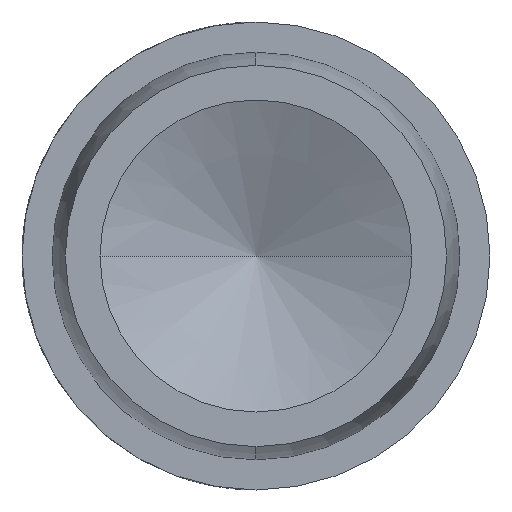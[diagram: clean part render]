
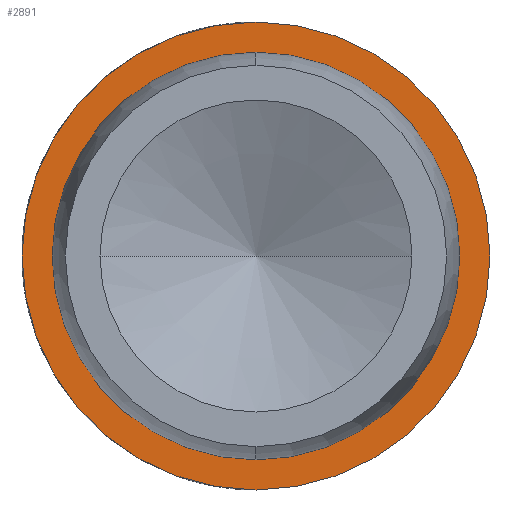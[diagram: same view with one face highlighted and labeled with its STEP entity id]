
A CAD part, left-side view. The second image highlights one B-rep face of the part: STEP entity #2891.
In plain terms, the highlighted planar face has unit normal (-1, 0, 0).
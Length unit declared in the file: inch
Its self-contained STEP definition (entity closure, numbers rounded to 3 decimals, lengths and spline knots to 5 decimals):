
#71 = DIRECTION ( 'NONE',  ( -1., 0., 0. ) ) ;
#96 = EDGE_LOOP ( 'NONE', ( #1020, #966 ) ) ;
#265 = EDGE_LOOP ( 'NONE', ( #957, #948 ) ) ;
#357 = DIRECTION ( 'NONE',  ( -1., 0., 0. ) ) ;
#447 = CIRCLE ( 'NONE', #2222, 0.5625 ) ;
#508 = CIRCLE ( 'NONE', #2364, 0.49 ) ;
#548 = DIRECTION ( 'NONE',  ( -1., 0., 0. ) ) ;
#683 = CARTESIAN_POINT ( 'NONE',  ( -0.59941, 3.48708, -2.88083 ) ) ;
#831 = CARTESIAN_POINT ( 'NONE',  ( -0.59941, 3.48708, -3.44333 ) ) ;
#948 = ORIENTED_EDGE ( 'NONE', *, *, #2861, .F. ) ;
#957 = ORIENTED_EDGE ( 'NONE', *, *, #2919, .F. ) ;
#966 = ORIENTED_EDGE ( 'NONE', *, *, #2925, .T. ) ;
#1020 = ORIENTED_EDGE ( 'NONE', *, *, #2881, .T. ) ;
#1027 = CARTESIAN_POINT ( 'NONE',  ( -0.59941, 3.48708, -3.93333 ) ) ;
#1055 = DIRECTION ( 'NONE',  ( 0., 0., 1. ) ) ;
#1098 = FACE_BOUND ( 'NONE', #265, .T. ) ;
#1133 = CARTESIAN_POINT ( 'NONE',  ( -0.59941, 3.48708, -4.00583 ) ) ;
#1144 = VERTEX_POINT ( 'NONE', #1027 ) ;
#1168 = CARTESIAN_POINT ( 'NONE',  ( -0.59941, 3.48708, -3.44333 ) ) ;
#1291 = FACE_OUTER_BOUND ( 'NONE', #96, .T. ) ;
#1363 = DIRECTION ( 'NONE',  ( 0., 0., 1. ) ) ;
#1389 = CIRCLE ( 'NONE', #2410, 0.5625 ) ;
#1408 = CARTESIAN_POINT ( 'NONE',  ( -0.59941, 3.48708, -3.93333 ) ) ;
#1561 = VERTEX_POINT ( 'NONE', #1133 ) ;
#1600 = DIRECTION ( 'NONE',  ( 0., 0., 1. ) ) ;
#1630 = CARTESIAN_POINT ( 'NONE',  ( -0.59941, 3.48708, -3.44333 ) ) ;
#1755 = CIRCLE ( 'NONE', #2449, 0.49 ) ;
#1799 = CARTESIAN_POINT ( 'NONE',  ( -0.59941, 3.48708, -3.44333 ) ) ;
#1806 = PLANE ( 'NONE',  #2386 ) ;
#1842 = DIRECTION ( 'NONE',  ( 0., 0., 1. ) ) ;
#1980 = DIRECTION ( 'NONE',  ( 0., 0., 1. ) ) ;
#2029 = CARTESIAN_POINT ( 'NONE',  ( -0.59941, 3.48708, -2.95333 ) ) ;
#2193 = VERTEX_POINT ( 'NONE', #2029 ) ;
#2222 = AXIS2_PLACEMENT_3D ( 'NONE', #831, #2224, #1055 ) ;
#2224 = DIRECTION ( 'NONE',  ( -1., 0., 0. ) ) ;
#2364 = AXIS2_PLACEMENT_3D ( 'NONE', #1630, #357, #1842 ) ;
#2386 = AXIS2_PLACEMENT_3D ( 'NONE', #1408, #71, #1600 ) ;
#2410 = AXIS2_PLACEMENT_3D ( 'NONE', #1799, #548, #1980 ) ;
#2449 = AXIS2_PLACEMENT_3D ( 'NONE', #1168, #2643, #1363 ) ;
#2601 = VERTEX_POINT ( 'NONE', #683 ) ;
#2643 = DIRECTION ( 'NONE',  ( -1., 0., 0. ) ) ;
#2861 = EDGE_CURVE ( 'NONE', #1144, #2193, #1755, .T. ) ;
#2881 = EDGE_CURVE ( 'NONE', #2601, #1561, #1389, .T. ) ;
#2891 = ADVANCED_FACE ( 'NONE', ( #1098, #1291 ), #1806, .T. ) ;
#2919 = EDGE_CURVE ( 'NONE', #2193, #1144, #508, .T. ) ;
#2925 = EDGE_CURVE ( 'NONE', #1561, #2601, #447, .T. ) ;
